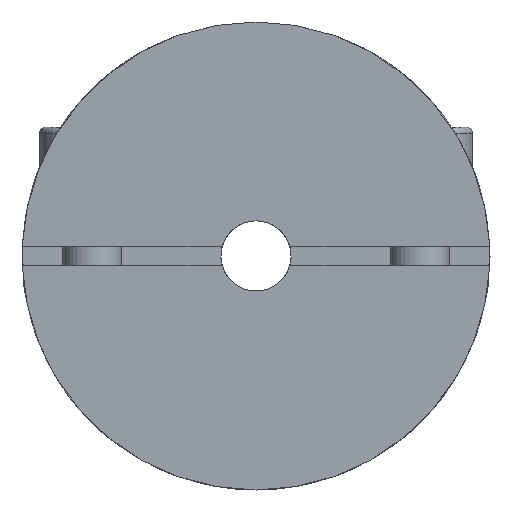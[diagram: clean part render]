
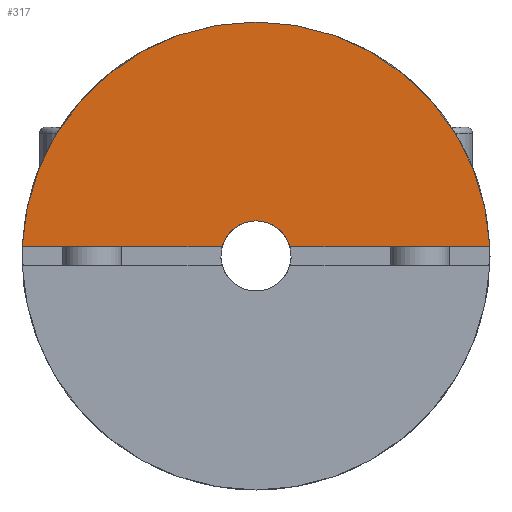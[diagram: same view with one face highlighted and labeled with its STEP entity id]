
A CAD part, left-side view. The second image highlights one B-rep face of the part: STEP entity #317.
In plain terms, the highlighted planar face has unit normal (-1, 0, 0) as drawn and (1, 0, 0) by its records, which use the part's own axes.
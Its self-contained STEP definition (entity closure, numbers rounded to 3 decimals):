
#317 = ADVANCED_FACE( '', ( #644 ), #645, .T. );
#644 = FACE_OUTER_BOUND( '', #1045, .T. );
#645 = PLANE( '', #1046 );
#1045 = EDGE_LOOP( '', ( #1531, #1532, #1533, #1534 ) );
#1046 = AXIS2_PLACEMENT_3D( '', #1535, #1536, #1537 );
#1531 = ORIENTED_EDGE( '', *, *, #2075, .F. );
#1532 = ORIENTED_EDGE( '', *, *, #2076, .F. );
#1533 = ORIENTED_EDGE( '', *, *, #2077, .F. );
#1534 = ORIENTED_EDGE( '', *, *, #2059, .T. );
#1535 = CARTESIAN_POINT( '', ( 8.5, 0., 10. ) );
#1536 = DIRECTION( '', ( 1., 0., 0. ) );
#1537 = DIRECTION( '', ( 0., 0., -1. ) );
#2059 = EDGE_CURVE( '', #2359, #2357, #2360, .T. );
#2075 = EDGE_CURVE( '', #2380, #2357, #2381, .T. );
#2076 = EDGE_CURVE( '', #2382, #2380, #2383, .T. );
#2077 = EDGE_CURVE( '', #2359, #2382, #2384, .T. );
#2357 = VERTEX_POINT( '', #2853 );
#2359 = VERTEX_POINT( '', #2856 );
#2360 = CIRCLE( '', #2857, 1.5 );
#2380 = VERTEX_POINT( '', #2878 );
#2381 = LINE( '', #2879, #2880 );
#2382 = VERTEX_POINT( '', #2881 );
#2383 = CIRCLE( '', #2882, 10. );
#2384 = LINE( '', #2883, #2884 );
#2853 = CARTESIAN_POINT( '', ( 8.5, 1.446, 0.4 ) );
#2856 = CARTESIAN_POINT( '', ( 8.5, -1.446, 0.4 ) );
#2857 = AXIS2_PLACEMENT_3D( '', #3266, #3267, #3268 );
#2878 = CARTESIAN_POINT( '', ( 8.5, 9.992, 0.4 ) );
#2879 = CARTESIAN_POINT( '', ( 8.5, 0., 0.4 ) );
#2880 = VECTOR( '', #3291, 1000. );
#2881 = CARTESIAN_POINT( '', ( 8.5, -9.992, 0.4 ) );
#2882 = AXIS2_PLACEMENT_3D( '', #3292, #3293, #3294 );
#2883 = CARTESIAN_POINT( '', ( 8.5, 0., 0.4 ) );
#2884 = VECTOR( '', #3295, 1000. );
#3266 = CARTESIAN_POINT( '', ( 8.5, 0., 0. ) );
#3267 = DIRECTION( '', ( -1., 0., 0. ) );
#3268 = DIRECTION( '', ( 0., 0., 1. ) );
#3291 = DIRECTION( '', ( 0., -1., 0. ) );
#3292 = CARTESIAN_POINT( '', ( 8.5, 0., 0. ) );
#3293 = DIRECTION( '', ( -1., 0., 0. ) );
#3294 = DIRECTION( '', ( 0., 0., 1. ) );
#3295 = DIRECTION( '', ( 0., -1., 0. ) );
